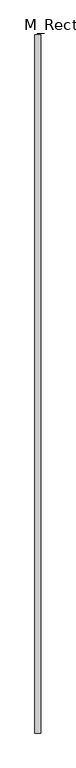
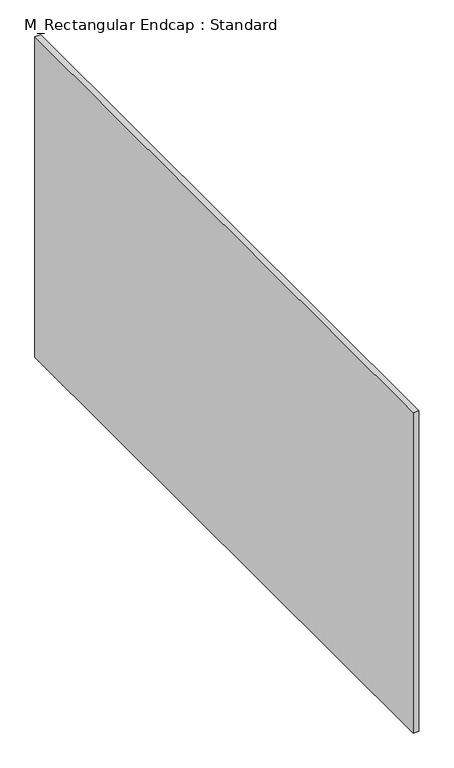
"""IFC4 building model written with IfcOpenShell, lengths in millimetres: duct fitting geometry, M_Rectangular Endcap : Standard."""

from ifc_helpers import new_model, si_unit, frame, origin, place, context, project, spatial, polyline, outline, extrude, source, transform, mapped, element, save


def m_rectangular_endcap_standard_3b5f437e(model_context):
    return source(origin(), model_context, "Body", "SweptSolid", [
        extrude(outline(polyline([(0.0, -1450.0), (0.0, 1450.0), (25.0, 1450.0), (25.0, -1450.0), (0.0, -1450.0)])), frame((0.0, 0.0, -750.0), z_axis=(0.0, 0.0, 1.0), x_axis=(1.0, 0.0, 0.0)), (0.0, 0.0, 1.0), 1500.0),
        extrude(outline(polyline([(0.0, -1450.0), (0.0, 1450.0), (25.0, 1450.0), (25.0, -1450.0), (0.0, -1450.0)])), frame((0.0, 0.0, -750.0), z_axis=(0.0, 0.0, 1.0), x_axis=(1.0, 0.0, 0.0)), (0.0, 0.0, 1.0), 1500.0),
        extrude(outline(polyline([(0.0, -1450.0), (0.0, 1450.0), (25.0, 1450.0), (25.0, -1450.0), (0.0, -1450.0)])), frame((0.0, 0.0, -750.0), z_axis=(0.0, 0.0, 1.0), x_axis=(1.0, 0.0, 0.0)), (0.0, 0.0, 1.0), 1500.0),
    ])


if __name__ == "__main__":
    model = new_model("IFC4")
    model_context = context("Model", 3, world=origin())
    ifc_project = project(units=[si_unit("LENGTHUNIT", "METRE", prefix="MILLI")], contexts=[model_context])
    site = spatial("IfcSite", under=ifc_project)
    building = spatial("IfcBuilding", under=site)
    placement = place(None, origin())
    m_rectangular_endcap_standard_shape = m_rectangular_endcap_standard_3b5f437e(model_context)
    element("IfcDuctFitting", 1, ObjectType="M_Rectangular Endcap : Standard", at=placement, inside=building, context=model_context, shape_type="MappedRepresentation", body=[
        mapped(m_rectangular_endcap_standard_shape, transform((0.0, 0.0, 0.0), x_axis=(1.0, 0.0, 0.0), y_axis=(0.0, 1.0, 0.0), z_axis=(0.0, 0.0, 1.0))),
    ])
    save(model, "model.ifc")
